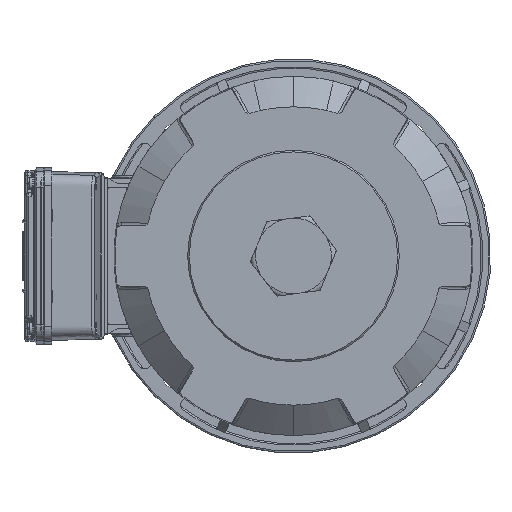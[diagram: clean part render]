
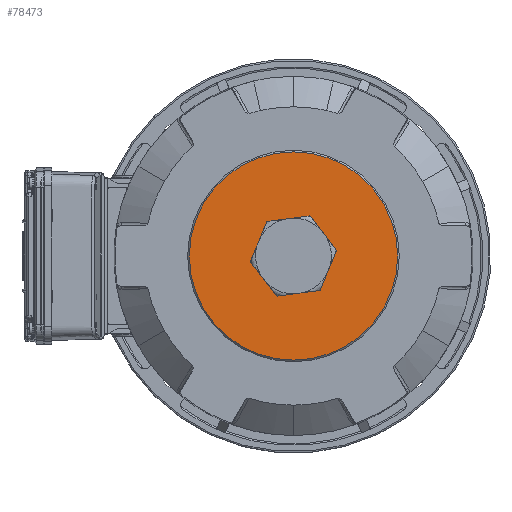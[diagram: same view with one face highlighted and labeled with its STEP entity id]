
A CAD part, left-side view. The second image highlights one B-rep face of the part: STEP entity #78473.
In plain terms, the highlighted planar face has unit normal (-1, 0, 0) as drawn and (1, 0, 0) by its records, which use the part's own axes.
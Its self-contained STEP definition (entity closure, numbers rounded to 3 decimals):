
#6714 = EDGE_LOOP ( 'NONE', ( #114889, #117388 ) ) ;
#9745 = ORIENTED_EDGE ( 'NONE', *, *, #118048, .T. ) ;
#13037 = DIRECTION ( 'NONE',  ( 1., 0., 0. ) ) ;
#15155 = CARTESIAN_POINT ( 'NONE',  ( 124., 0., 0. ) ) ;
#16509 = CARTESIAN_POINT ( 'NONE',  ( 124., 0., -66. ) ) ;
#23748 = ORIENTED_EDGE ( 'NONE', *, *, #89484, .T. ) ;
#26125 = DIRECTION ( 'NONE',  ( 0., 0., -1. ) ) ;
#26579 = FACE_OUTER_BOUND ( 'NONE', #89155, .T. ) ;
#34067 = DIRECTION ( 'NONE',  ( 1., 0., 0. ) ) ;
#36478 = CIRCLE ( 'NONE', #120145, 66. ) ;
#36533 = DIRECTION ( 'NONE',  ( 1., 0., 0. ) ) ;
#36554 = CIRCLE ( 'NONE', #62895, 66. ) ;
#37748 = AXIS2_PLACEMENT_3D ( 'NONE', #111674, #46141, #122697 ) ;
#38939 = CIRCLE ( 'NONE', #37748, 19.25 ) ;
#42116 = CARTESIAN_POINT ( 'NONE',  ( 124., 0., -19.25 ) ) ;
#45855 = EDGE_CURVE ( 'NONE', #97218, #107145, #122688, .T. ) ;
#46141 = DIRECTION ( 'NONE',  ( 1., 0., 0. ) ) ;
#56095 = PLANE ( 'NONE',  #73197 ) ;
#62895 = AXIS2_PLACEMENT_3D ( 'NONE', #15155, #91684, #26125 ) ;
#67641 = VERTEX_POINT ( 'NONE', #96572 ) ;
#73197 = AXIS2_PLACEMENT_3D ( 'NONE', #78505, #13037, #89572 ) ;
#78473 = ADVANCED_FACE ( 'NONE', ( #26579, #139692 ), #56095, .T. ) ;
#78505 = CARTESIAN_POINT ( 'NONE',  ( 124., 0., 0. ) ) ;
#89155 = EDGE_LOOP ( 'NONE', ( #23748, #9745 ) ) ;
#89484 = EDGE_CURVE ( 'NONE', #67641, #128128, #36478, .T. ) ;
#89572 = DIRECTION ( 'NONE',  ( 0., 0., -1. ) ) ;
#91684 = DIRECTION ( 'NONE',  ( 1., 0., 0. ) ) ;
#96572 = CARTESIAN_POINT ( 'NONE',  ( 124., 0., 66. ) ) ;
#97218 = VERTEX_POINT ( 'NONE', #42116 ) ;
#99654 = CARTESIAN_POINT ( 'NONE',  ( 124., 0., 0. ) ) ;
#102107 = CARTESIAN_POINT ( 'NONE',  ( 124., 0., 0. ) ) ;
#107145 = VERTEX_POINT ( 'NONE', #115553 ) ;
#110630 = DIRECTION ( 'NONE',  ( 0., 0., -1. ) ) ;
#111674 = CARTESIAN_POINT ( 'NONE',  ( 124., 0., 0. ) ) ;
#113115 = DIRECTION ( 'NONE',  ( 0., 0., -1. ) ) ;
#114889 = ORIENTED_EDGE ( 'NONE', *, *, #45855, .F. ) ;
#115553 = CARTESIAN_POINT ( 'NONE',  ( 124., 0., 19.25 ) ) ;
#117388 = ORIENTED_EDGE ( 'NONE', *, *, #132696, .F. ) ;
#118048 = EDGE_CURVE ( 'NONE', #128128, #67641, #36554, .T. ) ;
#120145 = AXIS2_PLACEMENT_3D ( 'NONE', #99654, #34067, #110630 ) ;
#122688 = CIRCLE ( 'NONE', #136558, 19.25 ) ;
#122697 = DIRECTION ( 'NONE',  ( 0., 0., -1. ) ) ;
#128128 = VERTEX_POINT ( 'NONE', #16509 ) ;
#132696 = EDGE_CURVE ( 'NONE', #107145, #97218, #38939, .T. ) ;
#136558 = AXIS2_PLACEMENT_3D ( 'NONE', #102107, #36533, #113115 ) ;
#139692 = FACE_BOUND ( 'NONE', #6714, .T. ) ;
